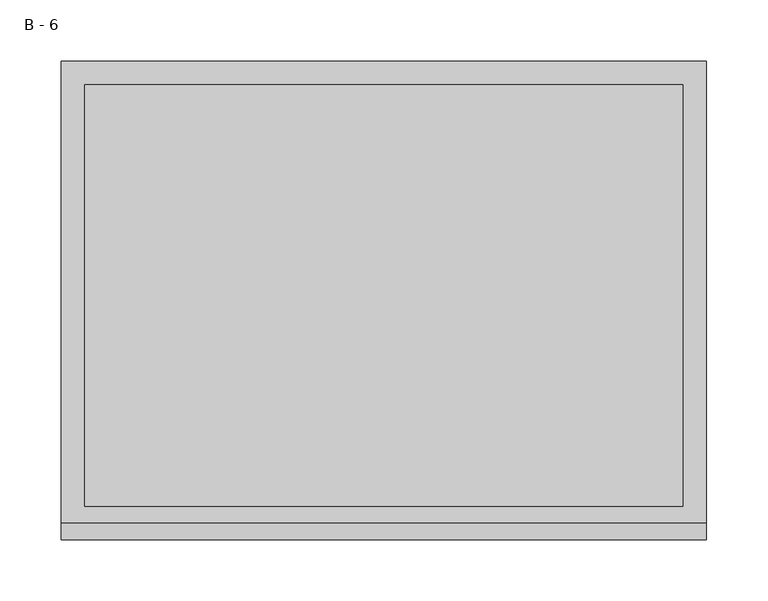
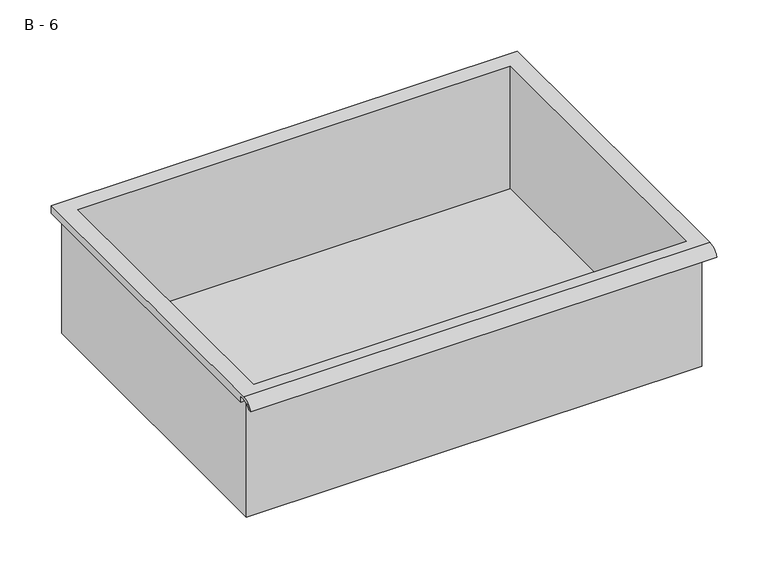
"""IFC4 building model written with IfcOpenShell, lengths in millimetres: furniture geometry, HermanMiller_CoStruc_CO207_Drawer : B - 6."""

import ifcopenshell
import ifcopenshell.guid

model = None  # the IFC model being written
_history = None  # IfcOwnerHistory: only IFC2X3 demands one
_inside = {}  # id of a spatial element -> (the spatial element, [elements in it])
_under = {}  # id of a project, library or spatial element -> (it, [spatial elements below it])
_declared = {}  # id of a project -> (the project, [libraries it declares])
_typed = {}  # id of a type object -> (the type object, [elements of that type])
_made_of = {}  # id of a material, layer set ... -> (it, [elements and type objects made of it])


def new_model(schema):
    """Start an empty IFC model of exactly this schema.

    Asked for "IFC4X3", IfcOpenShell would pick the latest addendum, in which some entities
    have other attributes; the version numbers below select the first issue.
    IFC2X3 requires an IfcOwnerHistory on every rooted entity: one is made here for all.
    """
    global model, _history
    if schema == "IFC4X3":
        model = ifcopenshell.file(schema_version=(4, 3, 0, 0))
    else:
        model = ifcopenshell.file(schema=schema)
    _inside.clear()
    _under.clear()
    _declared.clear()
    _typed.clear()
    _made_of.clear()
    _history = None
    if model.schema == "IFC2X3":
        org = make("IfcOrganization", Name="unknown")
        user = make(
            "IfcPersonAndOrganization",
            ThePerson=make("IfcPerson", FamilyName="unknown"),
            TheOrganization=org,
        )
        app = make(
            "IfcApplication",
            ApplicationDeveloper=org,
            Version="unknown",
            ApplicationFullName="unknown",
            ApplicationIdentifier="unknown",
        )
        _history = make(
            "IfcOwnerHistory",
            OwningUser=user,
            OwningApplication=app,
            ChangeAction="ADDED",
            CreationDate=0,
        )
    return model


def make(cls, **values):
    """One entity of the class cls with the attributes given. An attribute that is None is left unset."""
    return model.create_entity(
        cls, **{name: value for name, value in values.items() if value is not None}
    )


def rooted(cls, **values):
    """An entity with a GlobalId (a new one), such as an element, a storey or a relation."""
    return make(cls, GlobalId=ifcopenshell.guid.new(), OwnerHistory=_history, **values)


def si_unit(unit_type, name, prefix=None):
    """IfcSIUnit, for example si_unit("LENGTHUNIT", "METRE", prefix="MILLI")."""
    return make("IfcSIUnit", UnitType=unit_type, Prefix=prefix, Name=name)


def assignment(units):
    """IfcUnitAssignment: the units of a project."""
    return None if units is None else make("IfcUnitAssignment", Units=units)


def point(xyz):
    """IfcCartesianPoint."""
    return None if xyz is None else make("IfcCartesianPoint", Coordinates=xyz)


def direction(xyz):
    """IfcDirection."""
    return None if xyz is None else make("IfcDirection", DirectionRatios=xyz)


def frame(location, z_axis=None, x_axis=None):
    """IfcAxis2Placement3D, a coordinate frame: its origin and axes. An axis left out is left unset."""
    return make(
        "IfcAxis2Placement3D",
        Location=point(location),
        Axis=direction(z_axis),
        RefDirection=direction(x_axis),
    )


def origin():
    """The frame at (0, 0, 0) with its axes left unset."""
    return frame((0.0, 0.0, 0.0))


def place(relative_to, where):
    """IfcLocalPlacement: puts the frame where relative to a parent placement (None: the world)."""
    return make(
        "IfcLocalPlacement", PlacementRelTo=relative_to, RelativePlacement=where
    )


def context(
    kind, dimensions, precision=None, world=None, true_north=None, identifier=None
):
    """IfcGeometricRepresentationContext, for example the 3D "Model" context."""
    return make(
        "IfcGeometricRepresentationContext",
        ContextIdentifier=identifier,
        ContextType=kind,
        CoordinateSpaceDimension=dimensions,
        Precision=precision,
        WorldCoordinateSystem=world,
        TrueNorth=true_north,
    )


def project(units=None, contexts=None):
    """IfcProject with its units and contexts."""
    return rooted(
        "IfcProject",
        Name="project",
        RepresentationContexts=contexts,
        UnitsInContext=assignment(units),
    )


def spatial(cls, under=None, at=None, **own):
    """A site, building, storey or space (cls), placed at a placement, below another one or the project."""
    s = rooted(cls, ObjectPlacement=at, **own)
    if under is not None:
        _under.setdefault(under.id(), (under, []))[1].append(s)
    return s


def polyline(points):
    """IfcPolyline through the points."""
    return make("IfcPolyline", Points=[point(p) for p in points])


def circle_curve(where, radius):
    """IfcCircle in the frame where."""
    return make("IfcCircle", Position=where, Radius=radius)


def shape(context_of_items, identifier, shape_type, items):
    """IfcShapeRepresentation: the items that make up one representation, for example the "Body"."""
    return make(
        "IfcShapeRepresentation",
        ContextOfItems=context_of_items,
        RepresentationIdentifier=identifier,
        RepresentationType=shape_type,
        Items=items,
    )


def source(mapping_origin, context_of_items, identifier, shape_type, items):
    """IfcRepresentationMap: a shape defined once, which mapped items show again and again."""
    return make(
        "IfcRepresentationMap",
        MappingOrigin=mapping_origin,
        MappedRepresentation=shape(context_of_items, identifier, shape_type, items),
    )


def transform(
    local_origin,
    x_axis=None,
    y_axis=None,
    z_axis=None,
    scale=None,
    scale2=None,
    scale3=None,
    uniform=True,
):
    """IfcCartesianTransformationOperator3D, or its non-uniform kind. x_axis, y_axis, z_axis: its Axis1, 2, 3."""
    if uniform:
        return make(
            "IfcCartesianTransformationOperator3D",
            Axis1=direction(x_axis),
            Axis2=direction(y_axis),
            LocalOrigin=point(local_origin),
            Scale=scale,
            Axis3=direction(z_axis),
        )
    return make(
        "IfcCartesianTransformationOperator3DnonUniform",
        Axis1=direction(x_axis),
        Axis2=direction(y_axis),
        LocalOrigin=point(local_origin),
        Scale=scale,
        Axis3=direction(z_axis),
        Scale2=scale2,
        Scale3=scale3,
    )


def mapped(mapping_source, mapping_target):
    """IfcMappedItem: shows the shape of a source again, moved by a transform."""
    return make(
        "IfcMappedItem", MappingSource=mapping_source, MappingTarget=mapping_target
    )


def made_of(thing, what):
    """Note that an element or type object is made of a material, layer set ...; save() writes the relation."""
    if what is not None:
        _made_of.setdefault(what.id(), (what, []))[1].append(thing)
    return thing


def element(
    cls,
    number,
    at=None,
    inside=None,
    cuts=None,
    type_object=None,
    material=None,
    context=None,
    identifier="Body",
    shape_type=None,
    held_by="IfcProductDefinitionShape",
    body=None,
    shapes=None,
    **own,
):
    """One element of the class cls, such as IfcWall. Its Tag is "e" and its number.

    at: its placement. inside: the storey or other place that contains it. cuts: it is an
    opening in that element (IfcRelVoidsElement). A single representation is given by context,
    identifier, shape_type and body (its items); several are given by shapes. held_by: the class
    of the entity that holds the representations. save() writes the other relations.
    """
    e = rooted(cls, Tag="e%d" % number, ObjectPlacement=at, **own)
    if body is not None:
        shapes = [shape(context, identifier, shape_type, body)]
    if shapes is not None:
        e.Representation = make(held_by, Representations=shapes)
    if inside is not None:
        _inside.setdefault(inside.id(), (inside, []))[1].append(e)
    if cuts is not None:
        rooted(
            "IfcRelVoidsElement", RelatingBuildingElement=cuts, RelatedOpeningElement=e
        )
    if type_object is not None:
        _typed.setdefault(type_object.id(), (type_object, []))[1].append(e)
    return made_of(e, material)


def aggregate(whole, parts):
    """IfcRelAggregates: a whole, such as a stair, and the parts it consists of."""
    return rooted("IfcRelAggregates", RelatingObject=whole, RelatedObjects=parts)


def save(model, path):
    """Write the relations noted so far, then the file.

    IfcRelAggregates (storeys below a building ...), IfcRelContainedInSpatialStructure (elements
    in a storey), IfcRelDefinesByType, IfcRelAssociatesMaterial and IfcRelDeclares: one each for
    every whole, place, type object, material and project.
    """
    for whole, parts in _under.values():
        aggregate(whole, parts)
    for where, things in _inside.values():
        rooted(
            "IfcRelContainedInSpatialStructure",
            RelatedElements=things,
            RelatingStructure=where,
        )
    for kind, things in _typed.values():
        rooted("IfcRelDefinesByType", RelatedObjects=things, RelatingType=kind)
    for what, things in _made_of.values():
        rooted("IfcRelAssociatesMaterial", RelatedObjects=things, RelatingMaterial=what)
    for by, libraries in _declared.values():
        rooted("IfcRelDeclares", RelatingContext=by, RelatedDefinitions=libraries)
    model.write(path)


def plane_surface(at):
    """IfcPlane: the flat surface through the origin of the frame at, square to its z axis."""
    return make("IfcPlane", Position=at)


def cylinder_surface(at, radius):
    """IfcCylindricalSurface: all points at the distance radius from the z axis of the frame at."""
    return make("IfcCylindricalSurface", Position=at, Radius=radius)


def revolved_surface(curve, axis_point, axis_direction):
    """IfcSurfaceOfRevolution: the curve turned about the line through axis_point along axis_direction."""
    return make(
        "IfcSurfaceOfRevolution",
        SweptCurve=make("IfcArbitraryOpenProfileDef", ProfileType="CURVE", Curve=curve),
        AxisPosition=make("IfcAxis1Placement", Location=point(axis_point), Axis=direction(axis_direction)),
    )


def advanced_brep(points, edges, surfaces, faces):
    """IfcAdvancedBrep: a solid bounded by faces that lie on surfaces and meet in shared edges.

    An edge is (start, end): straight between two places in points (the first is 0);
    or (start, end, curve); or (start, end, curve, False) where it runs against its curve.
    A face is (place in surfaces, loops), or (place, loops, False) where it looks against
    its surface's normal. A loop lists edges by number (the first is 1), with a minus sign
    where the edge is run from its end to its start. The first loop is the outer one.
    """
    corners = [point(p) for p in points]
    vertices = [make("IfcVertexPoint", VertexGeometry=c) for c in corners]
    made = []
    for start, end, *more in edges:
        made.append(
            make(
                "IfcEdgeCurve",
                EdgeStart=vertices[start],
                EdgeEnd=vertices[end],
                EdgeGeometry=more[0] if more else make("IfcPolyline", Points=[corners[start], corners[end]]),
                SameSense=more[1] if len(more) > 1 else True,
            )
        )
    hull = []
    for where, loops, *sense in faces:
        bounds = []
        for j, loop in enumerate(loops):
            ring = [make("IfcOrientedEdge", EdgeElement=made[abs(k) - 1], Orientation=k > 0) for k in loop]
            bounds.append(
                make(
                    "IfcFaceOuterBound" if j == 0 else "IfcFaceBound",
                    Bound=make("IfcEdgeLoop", EdgeList=ring),
                    Orientation=True,
                )
            )
        hull.append(make("IfcAdvancedFace", Bounds=bounds, FaceSurface=surfaces[where], SameSense=sense[0] if sense else True))
    return make("IfcAdvancedBrep", Outer=make("IfcClosedShell", CfsFaces=hull))


def b_6_415e5fe2(model_context):
    return source(origin(), model_context, "Body", "AdvancedBrep", [
        advanced_brep(
        [(-257.1076517, -176.2125, 850.9), (257.2423483, -176.2125, 850.9), (257.2423483, -176.2125, 990.6), (263.5923483, -176.2125, 990.6), (263.5923483, -176.2125, 996.9071341), (-263.4576517, -176.2125, 996.9071341), (-263.4576517, -176.2125, 990.6), (-257.1076517, -176.2125, 990.6), (257.2423483, 185.7375, 850.9), (-257.1076517, 185.7375, 850.9), (-257.1076517, 185.7375, 990.6), (257.2423483, 185.7375, 990.6), (263.5923483, -181.6070544, 1000.125), (263.5923483, 195.2625, 1000.125), (-263.4576517, 195.2625, 1000.125), (-263.4576517, -181.6070544, 1000.125), (244.5423483, -168.275, 1000.125), (-244.4076517, -168.275, 1000.125), (-244.4076517, 176.2125, 1000.125), (244.5423483, 176.2125, 1000.125), (263.5923483, -195.2625, 990.6), (263.5923483, -191.8280601, 990.6), (263.5923483, -180.4714815, 996.9071341), (263.5923483, 195.2625, 990.6), (-263.4576517, 195.2625, 990.6), (-263.4576517, -180.4714815, 996.9071341), (-263.4576517, -191.8280601, 990.6), (-263.4576517, -195.2625, 990.6), (-244.4076517, -168.275, 853.9261719), (244.5423483, -168.275, 853.9261719), (244.5423483, 176.2125, 853.9261719), (-244.4076517, 176.2125, 853.9261719)],
        [
            (0, 1),
            (1, 2),
            (2, 3),
            (3, 4),
            (4, 5),
            (5, 6),
            (6, 7),
            (7, 0),
            (8, 9),
            (9, 10),
            (10, 11),
            (11, 8),
            (0, 9),
            (8, 1),
            (11, 2),
            (12, 13),
            (13, 14),
            (14, 15),
            (15, 12),
            (16, 17),
            (17, 18),
            (18, 19),
            (19, 16),
            (7, 10),
            (12, 20, circle_curve(frame((263.5923483, -181.6070544, 985.5739859), z_axis=(1.0, 0.0, 0.0), x_axis=(0.0, 1.0, 0.0)), 14.5510141)),
            (20, 21),
            (21, 22, circle_curve(frame((263.5923483, -181.6070544, 985.5739859), z_axis=(-1.0, 0.0, 0.0), x_axis=(0.0, 1.0, 0.0)), 11.3898979)),
            (22, 4),
            (3, 23),
            (23, 13),
            (14, 24),
            (24, 6),
            (5, 25),
            (25, 26, circle_curve(frame((-263.4576517, -181.6070544, 985.5739859), z_axis=(1.0, 0.0, 0.0), x_axis=(0.0, 1.0, 0.0)), 11.3898979)),
            (26, 27),
            (27, 15, circle_curve(frame((-263.4576517, -181.6070544, 985.5739859), z_axis=(-1.0, 0.0, 0.0), x_axis=(0.0, 1.0, 0.0)), 14.5510141)),
            (27, 20),
            (26, 21),
            (25, 22),
            (24, 23),
            (28, 29),
            (29, 30),
            (30, 31),
            (31, 28),
            (28, 17),
            (16, 29),
            (19, 30),
            (18, 31),
        ],
        [
            plane_surface(frame((257.2423483, -176.2125, 850.9), z_axis=(0.0, -1.0, 0.0), x_axis=(1.0, 0.0, 0.0))),
            plane_surface(frame((257.2423483, 185.7375, 850.9), z_axis=(0.0, 1.0, 0.0), x_axis=(-1.0, 0.0, 0.0))),
            plane_surface(frame((-257.1076517, -176.2125, 850.9), z_axis=(0.0, 0.0, -1.0), x_axis=(0.0, 1.0, 0.0))),
            plane_surface(frame((257.2423483, -176.2125, 850.9), z_axis=(1.0, 0.0, 0.0), x_axis=(0.0, 1.0, 0.0))),
            plane_surface(frame((257.2423483, -176.2125, 1000.125), z_axis=(0.0, 0.0, 1.0), x_axis=(0.0, 1.0, 0.0))),
            plane_surface(frame((-257.1076517, -176.2125, 1000.125), z_axis=(-1.0, 0.0, 0.0), x_axis=(0.0, 1.0, 0.0))),
            plane_surface(frame((263.5923483, 195.2625, 1000.125), z_axis=(1.0, 0.0, 0.0), x_axis=(0.0, -1.0, 0.0))),
            plane_surface(frame((-263.4576517, 195.2625, 1000.125), z_axis=(-1.0, 0.0, 0.0), x_axis=(0.0, 1.0, 0.0))),
            cylinder_surface(frame((-263.4576517, -181.6070544, 985.5739859), z_axis=(1.0, 0.0, 0.0), x_axis=(0.0, 1.0, 0.0)), 14.5510141),
            plane_surface(frame((263.5923483, -195.2625, 990.6), z_axis=(0.0, -7.133584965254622e-12, -1.0), x_axis=(-1.0, 0.0, 0.0))),
            revolved_surface(polyline([(-263.4576517, -170.21715650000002, 985.5739859), (263.59234829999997, -170.21715650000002, 985.5739859)]), (-263.4576517, -181.6070544, 985.5739859), (-1.0, 0.0, 0.0)),
            plane_surface(frame((263.5923483, -180.4714815, 996.9071341), z_axis=(0.0, -1.770250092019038e-11, -1.0), x_axis=(-1.0, 0.0, 0.0))),
            plane_surface(frame((263.5923483, -176.2125, 990.6), z_axis=(0.0, 0.0, -1.0), x_axis=(-1.0, 0.0, 0.0))),
            plane_surface(frame((263.5923483, 195.2625, 990.6), z_axis=(0.0, 1.0, 0.0), x_axis=(-1.0, 0.0, 0.0))),
            plane_surface(frame((244.5423483, -168.275, 853.9261719), z_axis=(0.0, 0.0, 1.0), x_axis=(-1.0, 0.0, 0.0))),
            plane_surface(frame((-244.4076517, -168.275, 1000.125), z_axis=(0.0, 1.0, 0.0), x_axis=(0.0, 0.0, -1.0))),
            plane_surface(frame((244.5423483, -168.275, 1000.125), z_axis=(-1.0, 0.0, 0.0), x_axis=(0.0, 0.0, -1.0))),
            plane_surface(frame((244.5423483, 176.2125, 1000.125), z_axis=(0.0, -1.0, 0.0), x_axis=(0.0, 0.0, -1.0))),
            plane_surface(frame((-244.4076517, 176.2125, 1000.125), z_axis=(1.0, 0.0, 0.0), x_axis=(0.0, 0.0, -1.0))),
        ],
        [
            (0, [[1, 2, 3, 4, 5, 6, 7, 8]]),
            (1, [[9, 10, 11, 12]]),
            (2, [[-1, 13, -9, 14]]),
            (3, [[-14, -12, 15, -2]]),
            (4, [[16, 17, 18, 19], [20, 21, 22, 23]]),
            (5, [[-13, -8, 24, -10]]),
            (6, [[-16, 25, 26, 27, 28, -4, 29, 30]]),
            (7, [[31, 32, -6, 33, 34, 35, 36, -18]]),
            (8, [[-25, -19, -36, 37]]),
            (9, [[-26, -37, -35, 38]]),
            (10, [[-27, -38, -34, 39]]),
            (11, [[-28, -39, -33, -5]]),
            (12, [[-29, -3, -15, -11, -24, -7, -32, 40]]),
            (13, [[-30, -40, -31, -17]]),
            (14, [[41, 42, 43, 44]]),
            (15, [[-41, 45, -20, 46]]),
            (16, [[-42, -46, -23, 47]]),
            (17, [[-43, -47, -22, 48]]),
            (18, [[-44, -48, -21, -45]]),
        ],
    ),
    ])


if __name__ == "__main__":
    model = new_model("IFC4")
    model_context = context("Model", 3, world=origin())
    ifc_project = project(units=[si_unit("LENGTHUNIT", "METRE", prefix="MILLI")], contexts=[model_context])
    site = spatial("IfcSite", under=ifc_project)
    building = spatial("IfcBuilding", under=site)
    placement = place(None, origin())
    b_6_shape = b_6_415e5fe2(model_context)
    element("IfcFurniture", 1, ObjectType="HermanMiller_CoStruc_CO207_Drawer : B - 6", at=placement, inside=building, context=model_context, shape_type="MappedRepresentation", body=[
        mapped(b_6_shape, transform((0.0, 0.0, 0.0), x_axis=(1.0, 0.0, 0.0), y_axis=(0.0, 1.0, 0.0), z_axis=(0.0, 0.0, 1.0))),
    ])
    save(model, "model.ifc")
